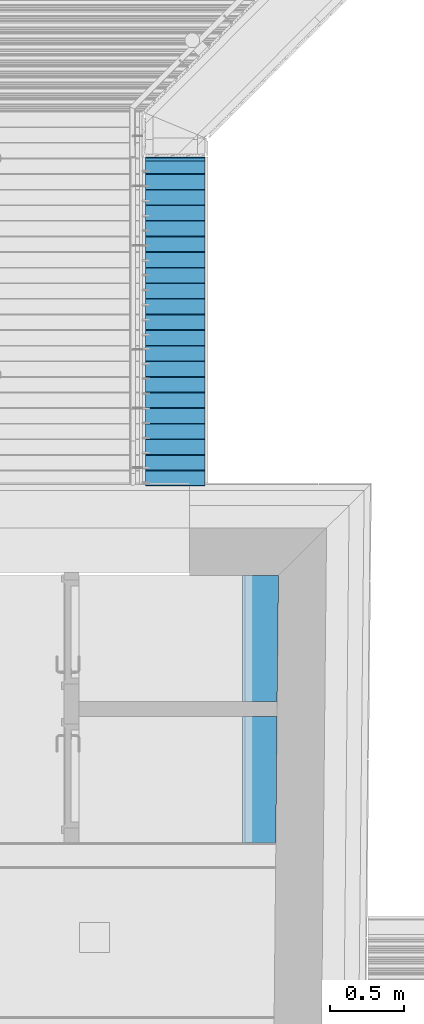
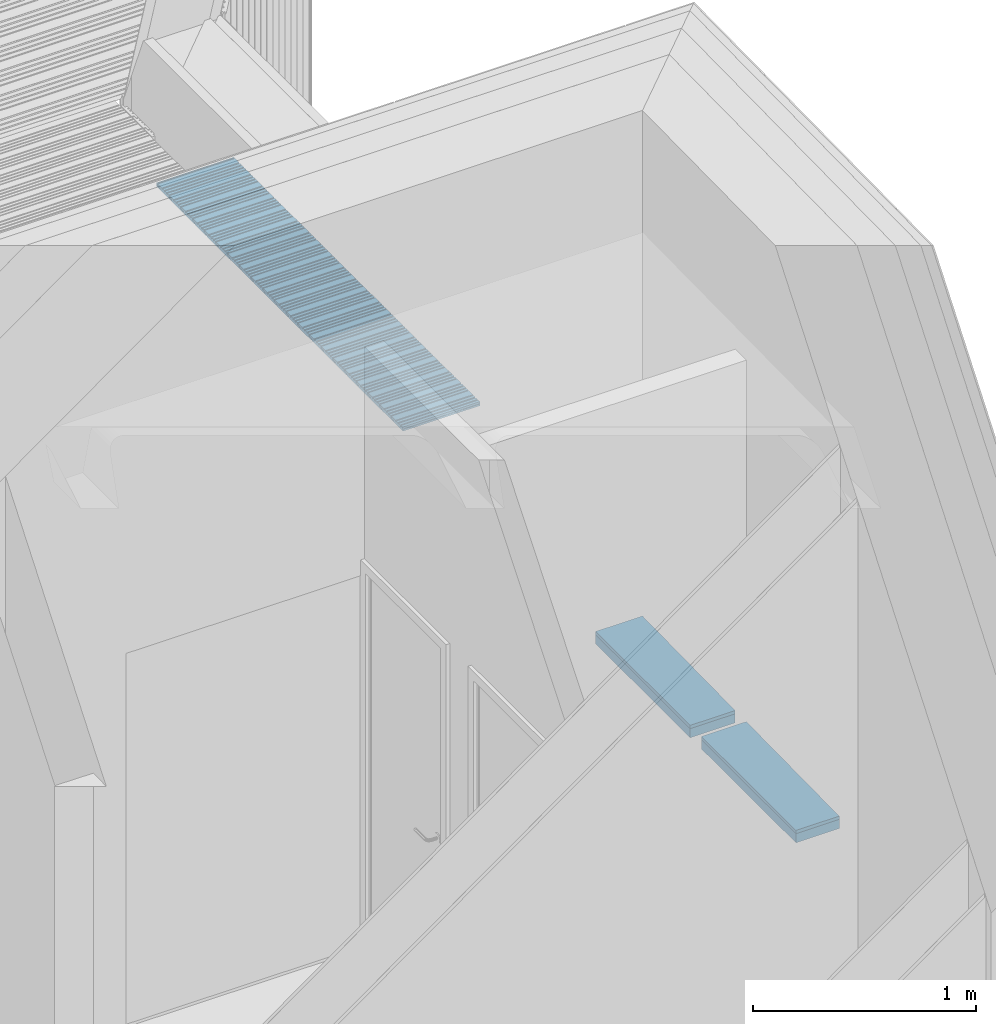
# One storey, part 72 of 418: 26 building element parts, 3 elements without a shape of their own.
"""IFC2X3 building model written with IfcOpenShell, lengths in millimetres."""

from ifc_helpers import new_model, entity, si_unit, converted_unit, derived_unit, money_unit, direction, frame, origin_with_axes, place, context, subcontext, project, spatial, polyline, outline, extrude, material, type_object, element, aggregate, save


model = new_model("IFC2X3")

# Units and contexts
model_context = context("Model", 3, precision=0.01, world=origin_with_axes(), true_north=direction((0.0, 1.0)))
body_context = subcontext(model_context, "Body", "Model", "MODEL_VIEW")
ifc_project = project(units=[si_unit("LENGTHUNIT", "METRE", prefix="MILLI"), si_unit("AREAUNIT", "SQUARE_METRE"), si_unit("VOLUMEUNIT", "CUBIC_METRE"), converted_unit("PLANEANGLEUNIT", "DEGREE", entity("IfcPlaneAngleMeasure", 0.0174532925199), si_unit("PLANEANGLEUNIT", "RADIAN"), dimensions=[0, 0, 0, 0, 0, 0, 0]), si_unit("SOLIDANGLEUNIT", "STERADIAN"), money_unit("EUR"), converted_unit("TIMEUNIT", "Year", entity("IfcTimeMeasure", 31556926.0), si_unit("TIMEUNIT", "SECOND"), dimensions=[0, 0, 1, 0, 0, 0, 0]), si_unit("MASSUNIT", "GRAM", prefix="KILO"), si_unit("THERMODYNAMICTEMPERATUREUNIT", "DEGREE_CELSIUS"), si_unit("LUMINOUSINTENSITYUNIT", "LUMEN"), si_unit("ENERGYUNIT", "JOULE", prefix="MEGA"), derived_unit("THERMALCONDUCTANCEUNIT", [(si_unit("POWERUNIT", "WATT"), 1), (si_unit("LENGTHUNIT", "METRE"), -1), (si_unit("THERMODYNAMICTEMPERATUREUNIT", "KELVIN"), -1)]), derived_unit("SPECIFICHEATCAPACITYUNIT", [(si_unit("ENERGYUNIT", "JOULE"), 1), (si_unit("MASSUNIT", "GRAM", prefix="KILO"), -1), (si_unit("THERMODYNAMICTEMPERATUREUNIT", "KELVIN"), -1)]), derived_unit("MASSDENSITYUNIT", [(si_unit("MASSUNIT", "GRAM", prefix="KILO"), 1), (si_unit("VOLUMEUNIT", "CUBIC_METRE"), -1)])], contexts=[model_context])

# Site, building, storey
site_placement = place(None, origin_with_axes())
site = spatial("IfcSite", under=ifc_project, at=site_placement, Name="Paldiski mnt 245/1, Tallinn, Harjumaa", CompositionType="COMPLEX")
building_placement = place(site_placement, origin_with_axes())
building = spatial("IfcBuilding", under=site, at=building_placement, Name="RKAS Hoone üldnimetus (kasutust iseloomustav) -> IFC Project Manager -> SOLIBRI", CompositionType="ELEMENT")
storey_placement = place(building_placement, origin_with_axes())
storey = spatial("IfcBuildingStorey", under=building, at=storey_placement, Name="Esimene korrus", CompositionType="ELEMENT", Elevation=0.0)

# Proxy, building element parts
building_element_proxy_type_1 = type_object("IfcBuildingElementProxyType", Name="WC-tagasein 68", PredefinedType="NOTDEFINED")
proxy_1_placement = place(storey_placement, frame((-47571.6975133, 34919.9150652, 1318.0), z_axis=(0.0, 0.0, 1.0), x_axis=(1.0, 0.0, 0.0)))
proxy_1 = element("IfcBuildingElementProxy", 1, at=proxy_1_placement, inside=storey, type_object=building_element_proxy_type_1, Name="AP-02")
ifc_material_1 = material(Name="SKR-01_Õhkvahe - Raam")
building_element_part_1_placement = place(proxy_1_placement, origin_with_axes())
building_element_part_1 = element("IfcBuildingElementPart", 2, at=building_element_part_1_placement, material=ifc_material_1, Name="SKR-01_Õhkvahe - Raam", context=body_context, shape_type="SweptSolid", body=[
    extrude(outline(polyline([(0.0, 0.0), (233.402964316, 0.0), (243.0, 849.91365911), (0.0, 849.91365911), (0.0, 0.0)])), frame((0.0, 0.0, -68.0), z_axis=(0.0, 0.0, 1.0), x_axis=(1.0, 0.0, 0.0)), (0.0, 0.0, 1.0), 50.0),
])
ifc_material_2 = material(Name="SKR-04_Puitplaat")
building_element_part_2_placement = place(proxy_1_placement, origin_with_axes())
building_element_part_2 = element("IfcBuildingElementPart", 3, at=building_element_part_2_placement, material=ifc_material_2, Name="SKR-04_Puitplaat", context=body_context, shape_type="SweptSolid", body=[
    extrude(outline(polyline([(0.0, 0.0), (233.402964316, 0.0), (243.0, 849.91365911), (0.0, 849.91365911), (0.0, 0.0)])), frame((0.0, 0.0, -18.0), z_axis=(0.0, 0.0, 1.0), x_axis=(1.0, 0.0, 0.0)), (0.0, 0.0, 1.0), 18.0),
])
aggregate(proxy_1, [building_element_part_1, building_element_part_2])

building_element_proxy_type_2 = type_object("IfcBuildingElementProxyType", Name="Laudis ava ulemine serv_02 2213 x 21", PredefinedType="NOTDEFINED")
proxy_2_placement = place(storey_placement, frame((-48224.5100747, 38584.1807452, 2280.0), z_axis=(0.0, 0.0, 1.0), x_axis=(1.0, 0.0, 0.0)))
proxy_2 = element("IfcBuildingElementProxy", 4, at=proxy_2_placement, inside=storey, type_object=building_element_proxy_type_2, Name="Varikatus")
ifc_material_3 = material(Name="Laudis 5072 Honka 45 horisontaalne")
building_element_part_3_placement = place(proxy_2_placement, origin_with_axes())
building_element_part_3 = element("IfcBuildingElementPart", 5, at=building_element_part_3_placement, material=ifc_material_3, Name="Laudis 5072 Honka 45 horisontaalne", context=body_context, shape_type="SweptSolid", body=[
    extrude(outline(polyline([(31.1789260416, 0.0), (131.17892573, 0.0), (131.178926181, 9.99999952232), (111.178926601, 10.0000004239), (111.178925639, 21.0000001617), (96.6027385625, 21.0000005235), (96.6027383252, 14.000001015), (90.9620699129, 14.0000003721), (90.9620689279, 21.0000008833), (76.1335765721, 20.9999999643), (76.1335763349, 14.0000004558), (70.0066356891, 14.0000000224), (70.0066359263, 20.9999995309), (55.0675187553, 20.9999996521), (55.067518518, 14.0000001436), (48.7050214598, 14.0000004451), (48.7050204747, 21.0000009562), (11.1789259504, 20.9999999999), (11.1789255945, 10.5000007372), (31.1789261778, 10.5000010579), (31.1789260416, 0.0)])), frame((0.0, 0.0, 0.0), z_axis=(-1.0, 0.0, 0.0), x_axis=(0.0, -1.0, 0.0)), (0.0, 0.0, -1.0), 400.451983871),
])
building_element_part_4_placement = place(proxy_2_placement, origin_with_axes())
building_element_part_4 = element("IfcBuildingElementPart", 6, at=building_element_part_4_placement, material=ifc_material_3, Name="Laudis 5072 Honka 45 horisontaalne", context=body_context, shape_type="SweptSolid", body=[
    extrude(outline(polyline([(136.178926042, 0.0), (236.17892573, 0.0), (236.178926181, 9.99999952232), (216.178926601, 10.0000004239), (216.178925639, 21.0000001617), (201.602738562, 21.0000005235), (201.602738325, 14.000001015), (195.962069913, 14.0000003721), (195.962068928, 21.0000008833), (181.133576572, 20.9999999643), (181.133576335, 14.0000004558), (175.006635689, 14.0000000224), (175.006635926, 20.9999995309), (160.067518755, 20.9999996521), (160.067518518, 14.0000001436), (153.70502146, 14.0000004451), (153.705020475, 21.0000009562), (116.17892595, 20.9999999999), (116.178925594, 10.5000007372), (136.178926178, 10.5000010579), (136.178926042, 0.0)])), frame((0.0, 0.0, 0.0), z_axis=(-1.0, 0.0, 0.0), x_axis=(0.0, -1.0, 0.0)), (0.0, 0.0, -1.0), 400.451983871),
])
building_element_part_5_placement = place(proxy_2_placement, origin_with_axes())
building_element_part_5 = element("IfcBuildingElementPart", 7, at=building_element_part_5_placement, material=ifc_material_3, Name="Laudis 5072 Honka 45 horisontaalne", context=body_context, shape_type="SweptSolid", body=[
    extrude(outline(polyline([(241.178926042, 0.0), (341.17892573, 0.0), (341.178926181, 9.99999952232), (321.178926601, 10.0000004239), (321.178925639, 21.0000001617), (306.602738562, 21.0000005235), (306.602738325, 14.000001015), (300.962069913, 14.0000003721), (300.962068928, 21.0000008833), (286.133576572, 20.9999999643), (286.133576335, 14.0000004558), (280.006635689, 14.0000000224), (280.006635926, 20.9999995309), (265.067518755, 20.9999996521), (265.067518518, 14.0000001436), (258.70502146, 14.0000004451), (258.705020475, 21.0000009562), (221.17892595, 20.9999999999), (221.178925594, 10.5000007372), (241.178926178, 10.5000010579), (241.178926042, 0.0)])), frame((0.0, 0.0, 0.0), z_axis=(-1.0, 0.0, 0.0), x_axis=(0.0, -1.0, 0.0)), (0.0, 0.0, -1.0), 400.451983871),
])
building_element_part_6_placement = place(proxy_2_placement, origin_with_axes())
building_element_part_6 = element("IfcBuildingElementPart", 8, at=building_element_part_6_placement, material=ifc_material_3, Name="Laudis 5072 Honka 45 horisontaalne", context=body_context, shape_type="SweptSolid", body=[
    extrude(outline(polyline([(346.178926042, 0.0), (446.17892573, 0.0), (446.178926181, 9.99999952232), (426.178926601, 10.0000004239), (426.178925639, 21.0000001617), (411.602738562, 21.0000005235), (411.602738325, 14.000001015), (405.962069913, 14.0000003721), (405.962068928, 21.0000008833), (391.133576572, 20.9999999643), (391.133576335, 14.0000004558), (385.006635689, 14.0000000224), (385.006635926, 20.9999995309), (370.067518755, 20.9999996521), (370.067518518, 14.0000001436), (363.70502146, 14.0000004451), (363.705020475, 21.0000009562), (326.17892595, 20.9999999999), (326.178925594, 10.5000007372), (346.178926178, 10.5000010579), (346.178926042, 0.0)])), frame((0.0, 0.0, 0.0), z_axis=(-1.0, 0.0, 0.0), x_axis=(0.0, -1.0, 0.0)), (0.0, 0.0, -1.0), 400.451983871),
])
building_element_part_7_placement = place(proxy_2_placement, origin_with_axes())
building_element_part_7 = element("IfcBuildingElementPart", 9, at=building_element_part_7_placement, material=ifc_material_3, Name="Laudis 5072 Honka 45 horisontaalne", context=body_context, shape_type="SweptSolid", body=[
    extrude(outline(polyline([(451.178926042, 0.0), (551.17892573, 0.0), (551.178926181, 9.99999952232), (531.178926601, 10.0000004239), (531.178925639, 21.0000001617), (516.602738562, 21.0000005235), (516.602738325, 14.000001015), (510.962069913, 14.0000003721), (510.962068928, 21.0000008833), (496.133576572, 20.9999999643), (496.133576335, 14.0000004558), (490.006635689, 14.0000000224), (490.006635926, 20.9999995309), (475.067518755, 20.9999996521), (475.067518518, 14.0000001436), (468.70502146, 14.0000004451), (468.705020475, 21.0000009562), (431.17892595, 20.9999999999), (431.178925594, 10.5000007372), (451.178926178, 10.5000010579), (451.178926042, 0.0)])), frame((0.0, 0.0, 0.0), z_axis=(-1.0, 0.0, 0.0), x_axis=(0.0, -1.0, 0.0)), (0.0, 0.0, -1.0), 400.451983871),
])
building_element_part_8_placement = place(proxy_2_placement, origin_with_axes())
building_element_part_8 = element("IfcBuildingElementPart", 10, at=building_element_part_8_placement, material=ifc_material_3, Name="Laudis 5072 Honka 45 horisontaalne", context=body_context, shape_type="SweptSolid", body=[
    extrude(outline(polyline([(556.178926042, 0.0), (656.17892573, 0.0), (656.178926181, 9.99999952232), (636.178926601, 10.0000004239), (636.178925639, 21.0000001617), (621.602738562, 21.0000005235), (621.602738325, 14.000001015), (615.962069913, 14.0000003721), (615.962068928, 21.0000008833), (601.133576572, 20.9999999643), (601.133576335, 14.0000004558), (595.006635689, 14.0000000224), (595.006635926, 20.9999995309), (580.067518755, 20.9999996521), (580.067518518, 14.0000001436), (573.70502146, 14.0000004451), (573.705020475, 21.0000009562), (536.17892595, 20.9999999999), (536.178925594, 10.5000007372), (556.178926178, 10.5000010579), (556.178926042, 0.0)])), frame((0.0, 0.0, 0.0), z_axis=(-1.0, 0.0, 0.0), x_axis=(0.0, -1.0, 0.0)), (0.0, 0.0, -1.0), 400.451983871),
])
building_element_part_9_placement = place(proxy_2_placement, origin_with_axes())
building_element_part_9 = element("IfcBuildingElementPart", 11, at=building_element_part_9_placement, material=ifc_material_3, Name="Laudis 5072 Honka 45 horisontaalne", context=body_context, shape_type="SweptSolid", body=[
    extrude(outline(polyline([(661.178926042, 0.0), (761.17892573, 0.0), (761.178926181, 9.99999952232), (741.178926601, 10.0000004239), (741.178925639, 21.0000001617), (726.602738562, 21.0000005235), (726.602738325, 14.000001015), (720.962069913, 14.0000003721), (720.962068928, 21.0000008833), (706.133576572, 20.9999999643), (706.133576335, 14.0000004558), (700.006635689, 14.0000000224), (700.006635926, 20.9999995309), (685.067518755, 20.9999996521), (685.067518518, 14.0000001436), (678.70502146, 14.0000004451), (678.705020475, 21.0000009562), (641.17892595, 20.9999999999), (641.178925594, 10.5000007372), (661.178926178, 10.5000010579), (661.178926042, 0.0)])), frame((0.0, 0.0, 0.0), z_axis=(-1.0, 0.0, 0.0), x_axis=(0.0, -1.0, 0.0)), (0.0, 0.0, -1.0), 400.451983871),
])
building_element_part_10_placement = place(proxy_2_placement, origin_with_axes())
building_element_part_10 = element("IfcBuildingElementPart", 12, at=building_element_part_10_placement, material=ifc_material_3, Name="Laudis 5072 Honka 45 horisontaalne", context=body_context, shape_type="SweptSolid", body=[
    extrude(outline(polyline([(766.178926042, 0.0), (866.17892573, 0.0), (866.178926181, 9.99999952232), (846.178926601, 10.0000004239), (846.178925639, 21.0000001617), (831.602738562, 21.0000005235), (831.602738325, 14.000001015), (825.962069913, 14.0000003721), (825.962068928, 21.0000008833), (811.133576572, 20.9999999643), (811.133576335, 14.0000004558), (805.006635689, 14.0000000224), (805.006635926, 20.9999995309), (790.067518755, 20.9999996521), (790.067518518, 14.0000001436), (783.70502146, 14.0000004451), (783.705020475, 21.0000009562), (746.17892595, 20.9999999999), (746.178925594, 10.5000007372), (766.178926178, 10.5000010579), (766.178926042, 0.0)])), frame((0.0, 0.0, 0.0), z_axis=(-1.0, 0.0, 0.0), x_axis=(0.0, -1.0, 0.0)), (0.0, 0.0, -1.0), 400.451983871),
])
building_element_part_11_placement = place(proxy_2_placement, origin_with_axes())
building_element_part_11 = element("IfcBuildingElementPart", 13, at=building_element_part_11_placement, material=ifc_material_3, Name="Laudis 5072 Honka 45 horisontaalne", context=body_context, shape_type="SweptSolid", body=[
    extrude(outline(polyline([(871.178926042, 0.0), (971.17892573, 0.0), (971.178926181, 9.99999952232), (951.178926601, 10.0000004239), (951.178925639, 21.0000001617), (936.602738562, 21.0000005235), (936.602738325, 14.000001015), (930.962069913, 14.0000003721), (930.962068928, 21.0000008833), (916.133576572, 20.9999999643), (916.133576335, 14.0000004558), (910.006635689, 14.0000000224), (910.006635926, 20.9999995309), (895.067518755, 20.9999996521), (895.067518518, 14.0000001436), (888.70502146, 14.0000004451), (888.705020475, 21.0000009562), (851.17892595, 20.9999999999), (851.178925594, 10.5000007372), (871.178926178, 10.5000010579), (871.178926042, 0.0)])), frame((0.0, 0.0, 0.0), z_axis=(-1.0, 0.0, 0.0), x_axis=(0.0, -1.0, 0.0)), (0.0, 0.0, -1.0), 400.451983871),
])
building_element_part_12_placement = place(proxy_2_placement, origin_with_axes())
building_element_part_12 = element("IfcBuildingElementPart", 14, at=building_element_part_12_placement, material=ifc_material_3, Name="Laudis 5072 Honka 45 horisontaalne", context=body_context, shape_type="SweptSolid", body=[
    extrude(outline(polyline([(976.178926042, 0.0), (1076.17892573, 0.0), (1076.17892618, 9.99999952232), (1056.1789266, 10.0000004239), (1056.17892564, 21.0000001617), (1041.60273856, 21.0000005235), (1041.60273833, 14.000001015), (1035.96206991, 14.0000003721), (1035.96206893, 21.0000008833), (1021.13357657, 20.9999999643), (1021.13357633, 14.0000004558), (1015.00663569, 14.0000000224), (1015.00663593, 20.9999995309), (1000.06751876, 20.9999996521), (1000.06751852, 14.0000001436), (993.70502146, 14.0000004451), (993.705020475, 21.0000009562), (956.17892595, 20.9999999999), (956.178925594, 10.5000007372), (976.178926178, 10.5000010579), (976.178926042, 0.0)])), frame((0.0, 0.0, 0.0), z_axis=(-1.0, 0.0, 0.0), x_axis=(0.0, -1.0, 0.0)), (0.0, 0.0, -1.0), 400.451983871),
])
building_element_part_13_placement = place(proxy_2_placement, origin_with_axes())
building_element_part_13 = element("IfcBuildingElementPart", 15, at=building_element_part_13_placement, material=ifc_material_3, Name="Laudis 5072 Honka 45 horisontaalne", context=body_context, shape_type="SweptSolid", body=[
    extrude(outline(polyline([(1081.17892604, 0.0), (1181.17892573, 0.0), (1181.17892618, 9.99999952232), (1161.1789266, 10.0000004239), (1161.17892564, 21.0000001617), (1146.60273856, 21.0000005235), (1146.60273833, 14.000001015), (1140.96206991, 14.0000003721), (1140.96206893, 21.0000008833), (1126.13357657, 20.9999999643), (1126.13357633, 14.0000004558), (1120.00663569, 14.0000000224), (1120.00663593, 20.9999995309), (1105.06751876, 20.9999996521), (1105.06751852, 14.0000001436), (1098.70502146, 14.0000004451), (1098.70502047, 21.0000009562), (1061.17892595, 20.9999999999), (1061.17892559, 10.5000007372), (1081.17892618, 10.5000010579), (1081.17892604, 0.0)])), frame((0.0, 0.0, 0.0), z_axis=(-1.0, 0.0, 0.0), x_axis=(0.0, -1.0, 0.0)), (0.0, 0.0, -1.0), 400.451983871),
])
building_element_part_14_placement = place(proxy_2_placement, origin_with_axes())
building_element_part_14 = element("IfcBuildingElementPart", 16, at=building_element_part_14_placement, material=ifc_material_3, Name="Laudis 5072 Honka 45 horisontaalne", context=body_context, shape_type="SweptSolid", body=[
    extrude(outline(polyline([(1186.17892604, 0.0), (1286.17892573, 0.0), (1286.17892618, 9.99999952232), (1266.1789266, 10.0000004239), (1266.17892564, 21.0000001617), (1251.60273856, 21.0000005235), (1251.60273833, 14.000001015), (1245.96206991, 14.0000003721), (1245.96206893, 21.0000008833), (1231.13357657, 20.9999999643), (1231.13357633, 14.0000004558), (1225.00663569, 14.0000000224), (1225.00663593, 20.9999995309), (1210.06751876, 20.9999996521), (1210.06751852, 14.0000001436), (1203.70502146, 14.0000004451), (1203.70502047, 21.0000009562), (1166.17892595, 20.9999999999), (1166.17892559, 10.5000007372), (1186.17892618, 10.5000010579), (1186.17892604, 0.0)])), frame((0.0, 0.0, 0.0), z_axis=(-1.0, 0.0, 0.0), x_axis=(0.0, -1.0, 0.0)), (0.0, 0.0, -1.0), 400.451983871),
])
building_element_part_15_placement = place(proxy_2_placement, origin_with_axes())
building_element_part_15 = element("IfcBuildingElementPart", 17, at=building_element_part_15_placement, material=ifc_material_3, Name="Laudis 5072 Honka 45 horisontaalne", context=body_context, shape_type="SweptSolid", body=[
    extrude(outline(polyline([(1291.17892604, 0.0), (1391.17892573, 0.0), (1391.17892618, 9.99999952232), (1371.1789266, 10.0000004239), (1371.17892564, 21.0000001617), (1356.60273856, 21.0000005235), (1356.60273833, 14.000001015), (1350.96206991, 14.0000003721), (1350.96206893, 21.0000008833), (1336.13357657, 20.9999999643), (1336.13357633, 14.0000004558), (1330.00663569, 14.0000000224), (1330.00663593, 20.9999995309), (1315.06751876, 20.9999996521), (1315.06751852, 14.0000001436), (1308.70502146, 14.0000004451), (1308.70502047, 21.0000009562), (1271.17892595, 20.9999999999), (1271.17892559, 10.5000007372), (1291.17892618, 10.5000010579), (1291.17892604, 0.0)])), frame((0.0, 0.0, 0.0), z_axis=(-1.0, 0.0, 0.0), x_axis=(0.0, -1.0, 0.0)), (0.0, 0.0, -1.0), 400.451983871),
])
building_element_part_16_placement = place(proxy_2_placement, origin_with_axes())
building_element_part_16 = element("IfcBuildingElementPart", 18, at=building_element_part_16_placement, material=ifc_material_3, Name="Laudis 5072 Honka 45 horisontaalne", context=body_context, shape_type="SweptSolid", body=[
    extrude(outline(polyline([(1396.17892604, 0.0), (1496.17892573, 0.0), (1496.17892618, 9.99999952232), (1476.1789266, 10.0000004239), (1476.17892564, 21.0000001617), (1461.60273856, 21.0000005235), (1461.60273833, 14.000001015), (1455.96206991, 14.0000003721), (1455.96206893, 21.0000008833), (1441.13357657, 20.9999999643), (1441.13357633, 14.0000004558), (1435.00663569, 14.0000000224), (1435.00663593, 20.9999995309), (1420.06751876, 20.9999996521), (1420.06751852, 14.0000001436), (1413.70502146, 14.0000004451), (1413.70502047, 21.0000009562), (1376.17892595, 20.9999999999), (1376.17892559, 10.5000007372), (1396.17892618, 10.5000010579), (1396.17892604, 0.0)])), frame((0.0, 0.0, 0.0), z_axis=(-1.0, 0.0, 0.0), x_axis=(0.0, -1.0, 0.0)), (0.0, 0.0, -1.0), 400.451983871),
])
building_element_part_17_placement = place(proxy_2_placement, origin_with_axes())
building_element_part_17 = element("IfcBuildingElementPart", 19, at=building_element_part_17_placement, material=ifc_material_3, Name="Laudis 5072 Honka 45 horisontaalne", context=body_context, shape_type="SweptSolid", body=[
    extrude(outline(polyline([(1501.17892604, 0.0), (1601.17892573, 0.0), (1601.17892618, 9.99999952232), (1581.1789266, 10.0000004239), (1581.17892564, 21.0000001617), (1566.60273856, 21.0000005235), (1566.60273833, 14.000001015), (1560.96206991, 14.0000003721), (1560.96206893, 21.0000008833), (1546.13357657, 20.9999999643), (1546.13357633, 14.0000004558), (1540.00663569, 14.0000000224), (1540.00663593, 20.9999995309), (1525.06751876, 20.9999996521), (1525.06751852, 14.0000001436), (1518.70502146, 14.0000004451), (1518.70502047, 21.0000009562), (1481.17892595, 20.9999999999), (1481.17892559, 10.5000007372), (1501.17892618, 10.5000010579), (1501.17892604, 0.0)])), frame((0.0, 0.0, 0.0), z_axis=(-1.0, 0.0, 0.0), x_axis=(0.0, -1.0, 0.0)), (0.0, 0.0, -1.0), 400.451983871),
])
building_element_part_18_placement = place(proxy_2_placement, origin_with_axes())
building_element_part_18 = element("IfcBuildingElementPart", 20, at=building_element_part_18_placement, material=ifc_material_3, Name="Laudis 5072 Honka 45 horisontaalne", context=body_context, shape_type="SweptSolid", body=[
    extrude(outline(polyline([(1606.17892604, 0.0), (1706.17892573, 0.0), (1706.17892618, 9.99999952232), (1686.1789266, 10.0000004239), (1686.17892564, 21.0000001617), (1671.60273856, 21.0000005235), (1671.60273833, 14.000001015), (1665.96206991, 14.0000003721), (1665.96206893, 21.0000008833), (1651.13357657, 20.9999999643), (1651.13357633, 14.0000004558), (1645.00663569, 14.0000000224), (1645.00663593, 20.9999995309), (1630.06751876, 20.9999996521), (1630.06751852, 14.0000001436), (1623.70502146, 14.0000004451), (1623.70502047, 21.0000009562), (1586.17892595, 20.9999999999), (1586.17892559, 10.5000007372), (1606.17892618, 10.5000010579), (1606.17892604, 0.0)])), frame((0.0, 0.0, 0.0), z_axis=(-1.0, 0.0, 0.0), x_axis=(0.0, -1.0, 0.0)), (0.0, 0.0, -1.0), 400.451983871),
])
building_element_part_19_placement = place(proxy_2_placement, origin_with_axes())
building_element_part_19 = element("IfcBuildingElementPart", 21, at=building_element_part_19_placement, material=ifc_material_3, Name="Laudis 5072 Honka 45 horisontaalne", context=body_context, shape_type="SweptSolid", body=[
    extrude(outline(polyline([(1711.17892604, 0.0), (1811.17892573, 0.0), (1811.17892618, 9.99999952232), (1791.1789266, 10.0000004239), (1791.17892564, 21.0000001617), (1776.60273856, 21.0000005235), (1776.60273833, 14.000001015), (1770.96206991, 14.0000003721), (1770.96206893, 21.0000008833), (1756.13357657, 20.9999999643), (1756.13357633, 14.0000004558), (1750.00663569, 14.0000000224), (1750.00663593, 20.9999995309), (1735.06751876, 20.9999996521), (1735.06751852, 14.0000001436), (1728.70502146, 14.0000004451), (1728.70502047, 21.0000009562), (1691.17892595, 20.9999999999), (1691.17892559, 10.5000007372), (1711.17892618, 10.5000010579), (1711.17892604, 0.0)])), frame((0.0, 0.0, 0.0), z_axis=(-1.0, 0.0, 0.0), x_axis=(0.0, -1.0, 0.0)), (0.0, 0.0, -1.0), 400.451983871),
])
building_element_part_20_placement = place(proxy_2_placement, origin_with_axes())
building_element_part_20 = element("IfcBuildingElementPart", 22, at=building_element_part_20_placement, material=ifc_material_3, Name="Laudis 5072 Honka 45 horisontaalne", context=body_context, shape_type="SweptSolid", body=[
    extrude(outline(polyline([(1816.17892604, 0.0), (1916.17892573, 0.0), (1916.17892618, 9.99999952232), (1896.1789266, 10.0000004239), (1896.17892564, 21.0000001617), (1881.60273856, 21.0000005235), (1881.60273833, 14.000001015), (1875.96206991, 14.0000003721), (1875.96206893, 21.0000008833), (1861.13357657, 20.9999999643), (1861.13357633, 14.0000004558), (1855.00663569, 14.0000000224), (1855.00663593, 20.9999995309), (1840.06751876, 20.9999996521), (1840.06751852, 14.0000001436), (1833.70502146, 14.0000004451), (1833.70502047, 21.0000009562), (1796.17892595, 20.9999999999), (1796.17892559, 10.5000007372), (1816.17892618, 10.5000010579), (1816.17892604, 0.0)])), frame((0.0, 0.0, 0.0), z_axis=(-1.0, 0.0, 0.0), x_axis=(0.0, -1.0, 0.0)), (0.0, 0.0, -1.0), 400.451983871),
])
building_element_part_21_placement = place(proxy_2_placement, origin_with_axes())
building_element_part_21 = element("IfcBuildingElementPart", 23, at=building_element_part_21_placement, material=ifc_material_3, Name="Laudis 5072 Honka 45 horisontaalne", context=body_context, shape_type="SweptSolid", body=[
    extrude(outline(polyline([(1921.17892604, 0.0), (2021.17892573, 0.0), (2021.17892618, 9.99999952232), (2001.1789266, 10.0000004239), (2001.17892564, 21.0000001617), (1986.60273856, 21.0000005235), (1986.60273833, 14.000001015), (1980.96206991, 14.0000003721), (1980.96206893, 21.0000008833), (1966.13357657, 20.9999999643), (1966.13357633, 14.0000004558), (1960.00663569, 14.0000000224), (1960.00663593, 20.9999995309), (1945.06751876, 20.9999996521), (1945.06751852, 14.0000001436), (1938.70502146, 14.0000004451), (1938.70502047, 21.0000009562), (1901.17892595, 20.9999999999), (1901.17892559, 10.5000007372), (1921.17892618, 10.5000010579), (1921.17892604, 0.0)])), frame((0.0, 0.0, 0.0), z_axis=(-1.0, 0.0, 0.0), x_axis=(0.0, -1.0, 0.0)), (0.0, 0.0, -1.0), 400.451983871),
])
building_element_part_22_placement = place(proxy_2_placement, origin_with_axes())
building_element_part_22 = element("IfcBuildingElementPart", 24, at=building_element_part_22_placement, material=ifc_material_3, Name="Laudis 5072 Honka 45 horisontaalne", context=body_context, shape_type="SweptSolid", body=[
    extrude(outline(polyline([(2026.17892604, 0.0), (2126.17892573, 0.0), (2126.17892618, 9.99999952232), (2106.1789266, 10.0000004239), (2106.17892564, 21.0000001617), (2091.60273856, 21.0000005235), (2091.60273833, 14.000001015), (2085.96206991, 14.0000003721), (2085.96206893, 21.0000008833), (2071.13357657, 20.9999999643), (2071.13357633, 14.0000004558), (2065.00663569, 14.0000000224), (2065.00663593, 20.9999995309), (2050.06751876, 20.9999996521), (2050.06751852, 14.0000001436), (2043.70502146, 14.0000004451), (2043.70502047, 21.0000009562), (2006.17892595, 20.9999999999), (2006.17892559, 10.5000007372), (2026.17892618, 10.5000010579), (2026.17892604, 0.0)])), frame((0.0, 0.0, 0.0), z_axis=(-1.0, 0.0, 0.0), x_axis=(0.0, -1.0, 0.0)), (0.0, 0.0, -1.0), 400.451983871),
])
building_element_part_23_placement = place(proxy_2_placement, origin_with_axes())
building_element_part_23 = element("IfcBuildingElementPart", 25, at=building_element_part_23_placement, material=ifc_material_3, Name="Laudis 5072 Honka 45 horisontaalne", context=body_context, shape_type="SweptSolid", body=[
    extrude(outline(polyline([(0.0, 0.0), (26.1789260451, 0.0), (26.1789260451, 9.99999973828), (6.1789265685, 10.0000006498), (6.17892565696, 20.9999997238), (0.0, 20.9999988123), (0.0, 0.0)])), frame((0.0, 0.0, 0.0), z_axis=(-1.0, 0.0, 0.0), x_axis=(0.0, -1.0, 0.0)), (0.0, 0.0, -1.0), 400.451983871),
])
building_element_part_24_placement = place(proxy_2_placement, origin_with_axes())
building_element_part_24 = element("IfcBuildingElementPart", 26, at=building_element_part_24_placement, material=ifc_material_3, Name="Laudis 5072 Honka 45 horisontaalne", context=body_context, shape_type="SweptSolid", body=[
    extrude(outline(polyline([(2131.17892604, 0.0), (2213.17892573, 0.0), (2213.17892618, 10.0000003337), (2211.1789266, 10.0000004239), (2211.17892564, 21.0000001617), (2196.60273856, 21.0000005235), (2196.60273833, 14.000001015), (2190.96206991, 14.0000003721), (2190.96206893, 21.0000008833), (2176.13357657, 20.9999999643), (2176.13357633, 14.0000004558), (2170.00663569, 14.0000000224), (2170.00663593, 20.9999995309), (2155.06751876, 20.9999996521), (2155.06751852, 14.0000001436), (2148.70502146, 14.0000004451), (2148.70502047, 21.0000009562), (2111.17892595, 20.9999999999), (2111.17892559, 10.5000007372), (2131.17892618, 10.5000010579), (2131.17892604, 0.0)])), frame((0.0, 0.0, 0.0), z_axis=(-1.0, 0.0, 0.0), x_axis=(0.0, -1.0, 0.0)), (0.0, 0.0, -1.0), 400.451983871),
])
aggregate(proxy_2, [building_element_part_3, building_element_part_4, building_element_part_5, building_element_part_6, building_element_part_7, building_element_part_8, building_element_part_9, building_element_part_10, building_element_part_11, building_element_part_12, building_element_part_13, building_element_part_14, building_element_part_15, building_element_part_16, building_element_part_17, building_element_part_18, building_element_part_19, building_element_part_20, building_element_part_21, building_element_part_22, building_element_part_23, building_element_part_24])

proxy_3_placement = place(storey_placement, frame((-47571.6975133, 33969.8287244, 1318.0), z_axis=(0.0, 0.0, 1.0), x_axis=(1.0, 0.0, 0.0)))
proxy_3 = element("IfcBuildingElementProxy", 27, at=proxy_3_placement, inside=storey, type_object=building_element_proxy_type_1, Name="AP-03")
building_element_part_25_placement = place(proxy_3_placement, origin_with_axes())
building_element_part_25 = element("IfcBuildingElementPart", 28, at=building_element_part_25_placement, material=ifc_material_1, Name="SKR-01_Õhkvahe - Raam", context=body_context, shape_type="SweptSolid", body=[
    extrude(outline(polyline([(0.0, 0.0), (224.852698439, 0.0), (233.402964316, 850.08634089), (0.0, 850.08634089), (0.0, 0.0)])), frame((0.0, 0.0, -68.0), z_axis=(0.0, 0.0, 1.0), x_axis=(1.0, 0.0, 0.0)), (0.0, 0.0, 1.0), 50.0),
])
building_element_part_26_placement = place(proxy_3_placement, origin_with_axes())
building_element_part_26 = element("IfcBuildingElementPart", 29, at=building_element_part_26_placement, material=ifc_material_2, Name="SKR-04_Puitplaat", context=body_context, shape_type="SweptSolid", body=[
    extrude(outline(polyline([(0.0, 0.0), (224.852698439, 0.0), (233.402964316, 850.08634089), (0.0, 850.08634089), (0.0, 0.0)])), frame((0.0, 0.0, -18.0), z_axis=(0.0, 0.0, 1.0), x_axis=(1.0, 0.0, 0.0)), (0.0, 0.0, 1.0), 18.0),
])
aggregate(proxy_3, [building_element_part_25, building_element_part_26])

save(model, "model.ifc")
